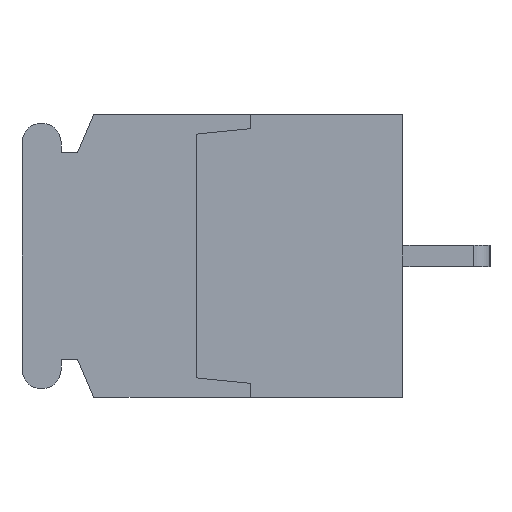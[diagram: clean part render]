
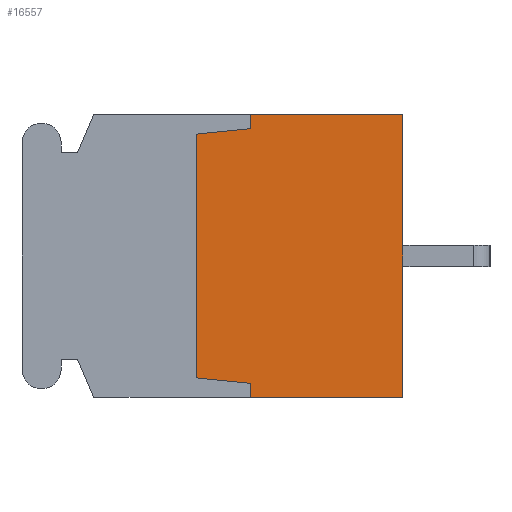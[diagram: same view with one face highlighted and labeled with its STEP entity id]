
A CAD part, left-side view. The second image highlights one B-rep face of the part: STEP entity #16557.
In plain terms, the highlighted planar face has unit normal (-1, 0, 0).
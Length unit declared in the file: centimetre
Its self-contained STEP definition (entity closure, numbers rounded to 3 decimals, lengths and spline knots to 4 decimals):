
#2273=VECTOR('',#20425,1.);
#2274=VECTOR('',#20426,1.);
#2275=VECTOR('',#20427,1.);
#2276=VECTOR('',#20428,1.);
#2277=VECTOR('',#20429,1.);
#2278=VECTOR('',#20430,1.);
#2279=VECTOR('',#20431,1.);
#2280=VECTOR('',#20432,1.);
#4137=LINE('',#25767,#2273);
#4138=LINE('',#25770,#2274);
#4139=LINE('',#25772,#2275);
#4140=LINE('',#25774,#2276);
#4141=LINE('',#25776,#2277);
#4142=LINE('',#25778,#2278);
#4143=LINE('',#25780,#2279);
#4144=LINE('',#25782,#2280);
#5874=VERTEX_POINT('',#25768);
#5875=VERTEX_POINT('',#25769);
#5876=VERTEX_POINT('',#25771);
#5877=VERTEX_POINT('',#25773);
#5878=VERTEX_POINT('',#25775);
#5879=VERTEX_POINT('',#25777);
#5880=VERTEX_POINT('',#25779);
#5881=VERTEX_POINT('',#25781);
#8281=EDGE_CURVE('',#5874,#5875,#4137,.T.);
#8282=EDGE_CURVE('',#5876,#5874,#4138,.T.);
#8283=EDGE_CURVE('',#5877,#5876,#4139,.T.);
#8284=EDGE_CURVE('',#5878,#5877,#4140,.T.);
#8285=EDGE_CURVE('',#5879,#5878,#4141,.T.);
#8286=EDGE_CURVE('',#5880,#5879,#4142,.T.);
#8287=EDGE_CURVE('',#5881,#5880,#4143,.T.);
#8288=EDGE_CURVE('',#5875,#5881,#4144,.T.);
#12583=ORIENTED_EDGE('',*,*,#8281,.F.);
#12584=ORIENTED_EDGE('',*,*,#8282,.F.);
#12585=ORIENTED_EDGE('',*,*,#8283,.F.);
#12586=ORIENTED_EDGE('',*,*,#8284,.F.);
#12587=ORIENTED_EDGE('',*,*,#8285,.F.);
#12588=ORIENTED_EDGE('',*,*,#8286,.F.);
#12589=ORIENTED_EDGE('',*,*,#8287,.F.);
#12590=ORIENTED_EDGE('',*,*,#8288,.F.);
#14579=EDGE_LOOP('',(#12583,#12584,#12585,#12586,#12587,#12588,#12589,#12590));
#15605=FACE_BOUND('',#14579,.T.);
#16557=ADVANCED_FACE('',(#15605),#17328,.F.);
#17328=PLANE('',#28369);
#20424=DIRECTION('',(1.,0.,0.));
#20425=DIRECTION('',(0.,0.,-1.));
#20426=DIRECTION('',(0.,-1.,0.));
#20427=DIRECTION('',(0.,0.,1.));
#20428=DIRECTION('',(0.,-0.995,0.1));
#20429=DIRECTION('',(0.,0.,1.));
#20430=DIRECTION('',(0.,0.995,0.1));
#20431=DIRECTION('',(0.,0.,1.));
#20432=DIRECTION('',(0.,1.,0.));
#25766=CARTESIAN_POINT('',(-1.07,0.4626,0.));
#25767=CARTESIAN_POINT('',(-1.07,0.,0.65));
#25768=CARTESIAN_POINT('',(-1.07,0.,0.65));
#25769=CARTESIAN_POINT('',(-1.07,0.,-0.65));
#25770=CARTESIAN_POINT('',(-1.07,0.7,0.65));
#25771=CARTESIAN_POINT('',(-1.07,0.7,0.65));
#25772=CARTESIAN_POINT('',(-1.07,0.7,0.585));
#25773=CARTESIAN_POINT('',(-1.07,0.7,0.585));
#25774=CARTESIAN_POINT('',(-1.07,0.95,0.56));
#25775=CARTESIAN_POINT('',(-1.07,0.95,0.56));
#25776=CARTESIAN_POINT('',(-1.07,0.95,-0.56));
#25777=CARTESIAN_POINT('',(-1.07,0.95,-0.56));
#25778=CARTESIAN_POINT('',(-1.07,0.7,-0.585));
#25779=CARTESIAN_POINT('',(-1.07,0.7,-0.585));
#25780=CARTESIAN_POINT('',(-1.07,0.7,-0.65));
#25781=CARTESIAN_POINT('',(-1.07,0.7,-0.65));
#25782=CARTESIAN_POINT('',(-1.07,0.,-0.65));
#28369=AXIS2_PLACEMENT_3D('',#25766,#20424,$);
